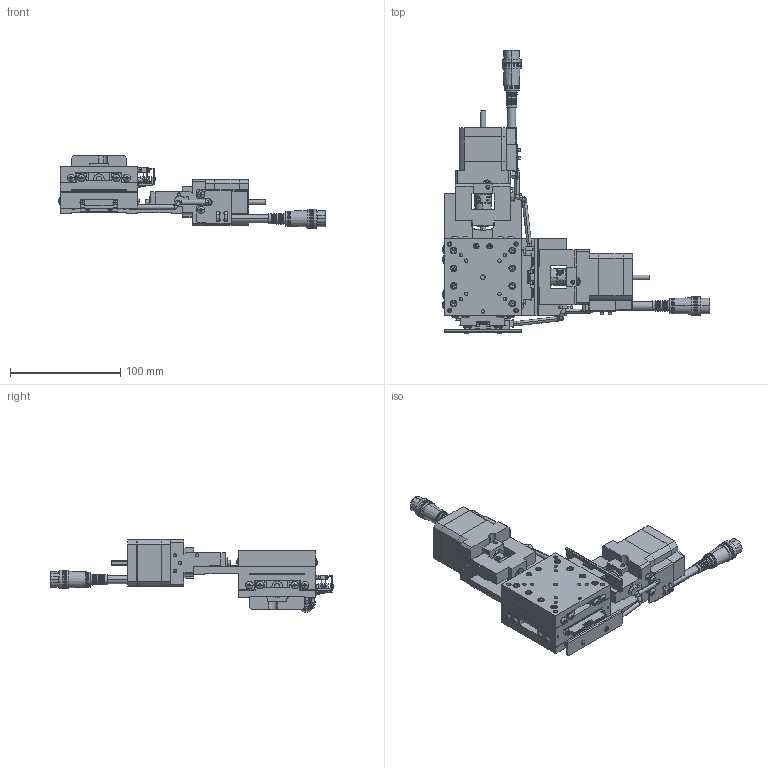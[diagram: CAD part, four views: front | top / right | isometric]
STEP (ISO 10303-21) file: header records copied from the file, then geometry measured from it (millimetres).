
FILE_DESCRIPTION (( 'STEP AP203' ), '1' );
FILE_NAME ('YA07F-R103-RRR.STEP', '2019-02-26T08:47:55', ( '' ), ( '' ), 'SwSTEP 2.0', 'SolidWorks 2018', '' );
FILE_SCHEMA (( 'CONFIG_CONTROL_DESIGN' ));
Length unit declared in the file: millimetre
Products named in the file (10): base; second table-Part-1; second table-Part-3; second table-Part-2; base-Part-2; table; second table; base-Part-1; YA07F-R103-RRR; base-Part-3
Assembly tree (9 placements, depth 3):
  YA07F-R103-RRR
    second table
      second table-Part-1
      second table-Part-2
      second table-Part-3
    base
      base-Part-1
      base-Part-2
      base-Part-3
    table
Bounding box: 242.39 x 256.68 x 65.5 mm (x, y, z)
Volume: 456279.9 mm3; surface area: 153629.1 mm2
Topology: 7 solids, 9 shells, 4085 faces, 10209 edges, 6272 vertices
Faces by surface type: plane 2373, cylinder 996, cone 540, torus 108, sphere 68
Entity records: 122925 total; most frequent: CARTESIAN_POINT 22574, DIRECTION 21665, ORIENTED_EDGE 20074, EDGE_CURVE 10037, AXIS2_PLACEMENT_3D 7803, VERTEX_POINT 6260, VECTOR 6059, LINE 6059
